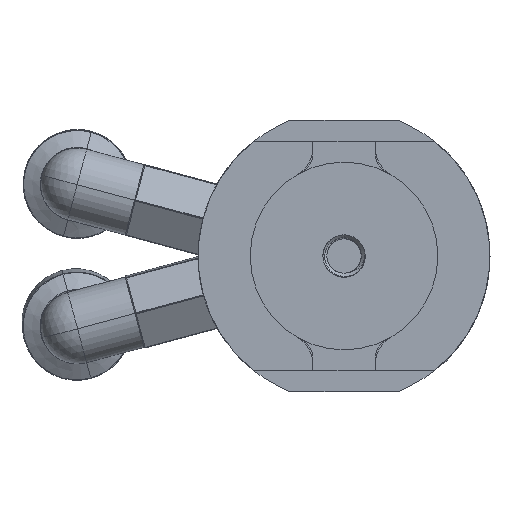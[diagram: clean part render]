
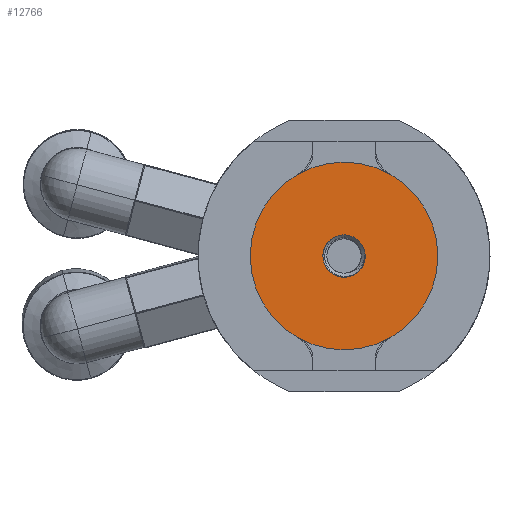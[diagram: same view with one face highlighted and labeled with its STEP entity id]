
A CAD part, front view. The second image highlights one B-rep face of the part: STEP entity #12766.
In plain terms, the highlighted planar face has unit normal (0, -1, 0).
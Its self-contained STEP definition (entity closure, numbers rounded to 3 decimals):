
#168 = CIRCLE ( 'NONE', #17595, 2.025 ) ;
#173 = CARTESIAN_POINT ( 'NONE',  ( 2.023, 0., 0.138 ) ) ;
#529 = CIRCLE ( 'NONE', #9642, 9. ) ;
#1000 = ORIENTED_EDGE ( 'NONE', *, *, #1731, .F. ) ;
#1003 = AXIS2_PLACEMENT_3D ( 'NONE', #9295, #12905, #15012 ) ;
#1151 = DIRECTION ( 'NONE',  ( 0., -1., 0. ) ) ;
#1575 = DIRECTION ( 'NONE',  ( 0., 1., 0. ) ) ;
#1630 = EDGE_CURVE ( 'NONE', #11810, #16071, #23194, .T. ) ;
#1731 = EDGE_CURVE ( 'NONE', #16263, #11568, #7723, .T. ) ;
#1914 = EDGE_LOOP ( 'NONE', ( #7889, #2886 ) ) ;
#2042 = CARTESIAN_POINT ( 'NONE',  ( 2.021, 0., 0.152 ) ) ;
#2354 = ORIENTED_EDGE ( 'NONE', *, *, #18452, .F. ) ;
#2390 = B_SPLINE_CURVE_WITH_KNOTS ( 'NONE', 3,
 ( #12932, #3366, #10799, #22217, #22465, #9084, #19984, #3001, #16533, #16284 ),
 .UNSPECIFIED., .F., .F.,
 ( 4, 2, 2, 2, 4 ),
 ( 0., 0., 0.001, 0.001, 0.002 ),
 .UNSPECIFIED. ) ;
#2886 = ORIENTED_EDGE ( 'NONE', *, *, #17777, .F. ) ;
#3001 = CARTESIAN_POINT ( 'NONE',  ( 2.028, 0., -0.142 ) ) ;
#3366 = CARTESIAN_POINT ( 'NONE',  ( 1.612, 0., -1.24 ) ) ;
#3574 = CARTESIAN_POINT ( 'NONE',  ( 2.018, 0., 0.166 ) ) ;
#4496 = DIRECTION ( 'NONE',  ( 0., 0., 1. ) ) ;
#5437 = CARTESIAN_POINT ( 'NONE',  ( 1.494, 0., -1.367 ) ) ;
#5695 = EDGE_LOOP ( 'NONE', ( #11358, #2354, #1000, #15347, #23384, #11343 ) ) ;
#5747 = CARTESIAN_POINT ( 'NONE',  ( 2.025, 0., 0.123 ) ) ;
#6360 = DIRECTION ( 'NONE',  ( 0., -1., 0. ) ) ;
#7199 = DIRECTION ( 'NONE',  ( 0., 0., -1. ) ) ;
#7723 = CIRCLE ( 'NONE', #10907, 2.025 ) ;
#7889 = ORIENTED_EDGE ( 'NONE', *, *, #1630, .F. ) ;
#8244 = CARTESIAN_POINT ( 'NONE',  ( 0., 0., 0. ) ) ;
#9084 = CARTESIAN_POINT ( 'NONE',  ( 1.963, 0., -0.532 ) ) ;
#9295 = CARTESIAN_POINT ( 'NONE',  ( 0., 0., 0. ) ) ;
#9427 = PLANE ( 'NONE',  #1003 ) ;
#9616 = B_SPLINE_CURVE_WITH_KNOTS ( 'NONE', 3,
 ( #5437, #22187, #22290, #20315 ),
 .UNSPECIFIED., .F., .F.,
 ( 4, 4 ),
 ( 0.004, 0.004 ),
 .UNSPECIFIED. ) ;
#9642 = AXIS2_PLACEMENT_3D ( 'NONE', #12853, #1575, #14968 ) ;
#10531 = CARTESIAN_POINT ( 'NONE',  ( 0., 0., -9. ) ) ;
#10672 = EDGE_CURVE ( 'NONE', #13431, #16263, #19671, .T. ) ;
#10776 = FACE_OUTER_BOUND ( 'NONE', #1914, .T. ) ;
#10799 = CARTESIAN_POINT ( 'NONE',  ( 1.69, 0., -1.131 ) ) ;
#10907 = AXIS2_PLACEMENT_3D ( 'NONE', #8244, #19883, #13691 ) ;
#11343 = ORIENTED_EDGE ( 'NONE', *, *, #18549, .F. ) ;
#11358 = ORIENTED_EDGE ( 'NONE', *, *, #23113, .F. ) ;
#11568 = VERTEX_POINT ( 'NONE', #15476 ) ;
#11810 = VERTEX_POINT ( 'NONE', #10531 ) ;
#12766 = ADVANCED_FACE ( 'NONE', ( #10776, #18344 ), #9427, .F. ) ;
#12853 = CARTESIAN_POINT ( 'NONE',  ( 0., 0., 0. ) ) ;
#12905 = DIRECTION ( 'NONE',  ( 0., 1., 0. ) ) ;
#12932 = CARTESIAN_POINT ( 'NONE',  ( 1.524, 0., -1.34 ) ) ;
#13060 = CARTESIAN_POINT ( 'NONE',  ( 2.025, 0., 0.123 ) ) ;
#13124 = VERTEX_POINT ( 'NONE', #23411 ) ;
#13431 = VERTEX_POINT ( 'NONE', #3574 ) ;
#13691 = DIRECTION ( 'NONE',  ( 0., 0., -1. ) ) ;
#14968 = DIRECTION ( 'NONE',  ( 0., 0., 1. ) ) ;
#15012 = DIRECTION ( 'NONE',  ( 0., 0., 1. ) ) ;
#15084 = CARTESIAN_POINT ( 'NONE',  ( 2.018, 0., 0.166 ) ) ;
#15188 = CARTESIAN_POINT ( 'NONE',  ( 0., 0., 9. ) ) ;
#15347 = ORIENTED_EDGE ( 'NONE', *, *, #10672, .F. ) ;
#15413 = VERTEX_POINT ( 'NONE', #16907 ) ;
#15476 = CARTESIAN_POINT ( 'NONE',  ( 0., 0., -2.025 ) ) ;
#15941 = DIRECTION ( 'NONE',  ( 0., 0., -1. ) ) ;
#16071 = VERTEX_POINT ( 'NONE', #15188 ) ;
#16263 = VERTEX_POINT ( 'NONE', #21622 ) ;
#16284 = CARTESIAN_POINT ( 'NONE',  ( 2.025, 0., 0.123 ) ) ;
#16533 = CARTESIAN_POINT ( 'NONE',  ( 2.033, 0., -0.01 ) ) ;
#16861 = AXIS2_PLACEMENT_3D ( 'NONE', #23601, #17652, #4496 ) ;
#16907 = CARTESIAN_POINT ( 'NONE',  ( 1.524, 0., -1.34 ) ) ;
#17293 = AXIS2_PLACEMENT_3D ( 'NONE', #19665, #6360, #15941 ) ;
#17595 = AXIS2_PLACEMENT_3D ( 'NONE', #24092, #1151, #7199 ) ;
#17652 = DIRECTION ( 'NONE',  ( 0., 1., 0. ) ) ;
#17777 = EDGE_CURVE ( 'NONE', #16071, #11810, #529, .T. ) ;
#18344 = FACE_BOUND ( 'NONE', #5695, .T. ) ;
#18452 = EDGE_CURVE ( 'NONE', #11568, #13124, #168, .T. ) ;
#18482 = B_SPLINE_CURVE_WITH_KNOTS ( 'NONE', 3,
 ( #5747, #173, #2042, #15084 ),
 .UNSPECIFIED., .F., .F.,
 ( 4, 4 ),
 ( 0., 0. ),
 .UNSPECIFIED. ) ;
#18549 = EDGE_CURVE ( 'NONE', #15413, #18644, #2390, .T. ) ;
#18644 = VERTEX_POINT ( 'NONE', #13060 ) ;
#19665 = CARTESIAN_POINT ( 'NONE',  ( 0., 0., 0. ) ) ;
#19671 = CIRCLE ( 'NONE', #17293, 2.025 ) ;
#19883 = DIRECTION ( 'NONE',  ( 0., -1., 0. ) ) ;
#19984 = CARTESIAN_POINT ( 'NONE',  ( 1.993, 0., -0.402 ) ) ;
#20315 = CARTESIAN_POINT ( 'NONE',  ( 1.524, 0., -1.34 ) ) ;
#21622 = CARTESIAN_POINT ( 'NONE',  ( 0., 0., 2.025 ) ) ;
#22187 = CARTESIAN_POINT ( 'NONE',  ( 1.504, 0., -1.358 ) ) ;
#22217 = CARTESIAN_POINT ( 'NONE',  ( 1.822, 0., -0.903 ) ) ;
#22290 = CARTESIAN_POINT ( 'NONE',  ( 1.514, 0., -1.349 ) ) ;
#22465 = CARTESIAN_POINT ( 'NONE',  ( 1.876, 0., -0.783 ) ) ;
#23113 = EDGE_CURVE ( 'NONE', #13124, #15413, #9616, .T. ) ;
#23194 = CIRCLE ( 'NONE', #16861, 9. ) ;
#23384 = ORIENTED_EDGE ( 'NONE', *, *, #24523, .F. ) ;
#23411 = CARTESIAN_POINT ( 'NONE',  ( 1.494, 0., -1.367 ) ) ;
#23601 = CARTESIAN_POINT ( 'NONE',  ( 0., 0., 0. ) ) ;
#24092 = CARTESIAN_POINT ( 'NONE',  ( 0., 0., 0. ) ) ;
#24523 = EDGE_CURVE ( 'NONE', #18644, #13431, #18482, .T. ) ;
